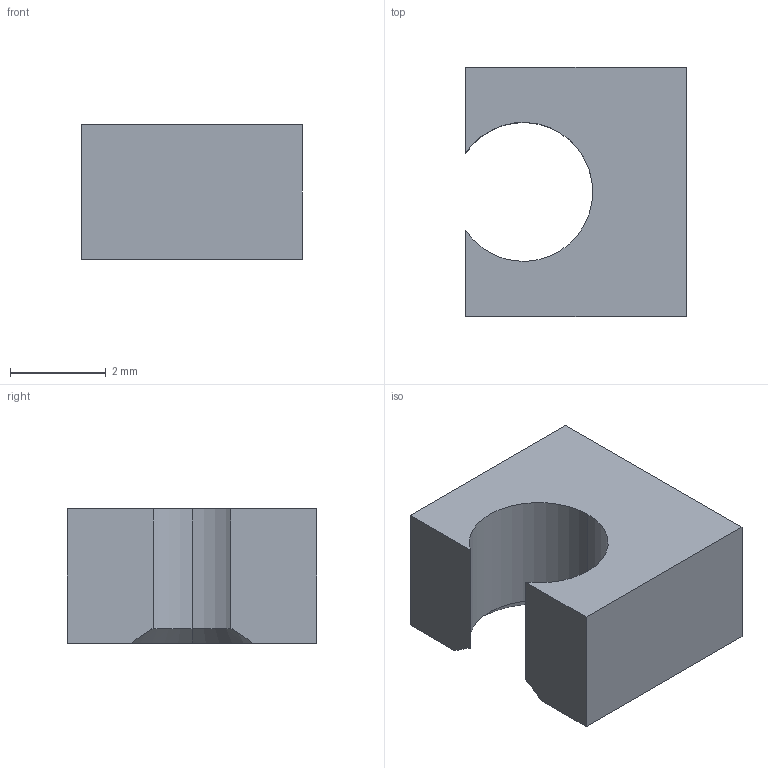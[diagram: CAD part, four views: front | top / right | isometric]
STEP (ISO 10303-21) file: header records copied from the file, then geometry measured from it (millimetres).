
FILE_DESCRIPTION(('Open CASCADE Model'),'2;1');
FILE_NAME('Open CASCADE Shape Model','2026-09-15T13:32:13',('Author'),( 'Open CASCADE'),'Open CASCADE STEP processor 7.7','Open CASCADE 7.7' ,'Unknown');
FILE_SCHEMA(('AUTOMOTIVE_DESIGN { 1 0 10303 214 1 1 1 1 }'));
Length unit declared in the file: millimetre
Products named in the file (1): ADD_P02_Closure_-33.4_-56_Head_Bolster
Bounding box: 4.6 x 5.2 x 2.8 mm (x, y, z)
Volume: 48.9 mm3; surface area: 104.8 mm2
Topology: 1 solids, 1 shells, 11 faces, 26 edges, 17 vertices
Faces by surface type: plane 7, cylinder 2, cone 2
Entity records: 668 total; most frequent: CARTESIAN_POINT 125, DIRECTION 102, LINE 58, VECTOR 58, ORIENTED_EDGE 52, PCURVE 52, DEFINITIONAL_REPRESENTATION 52, EDGE_CURVE 26
